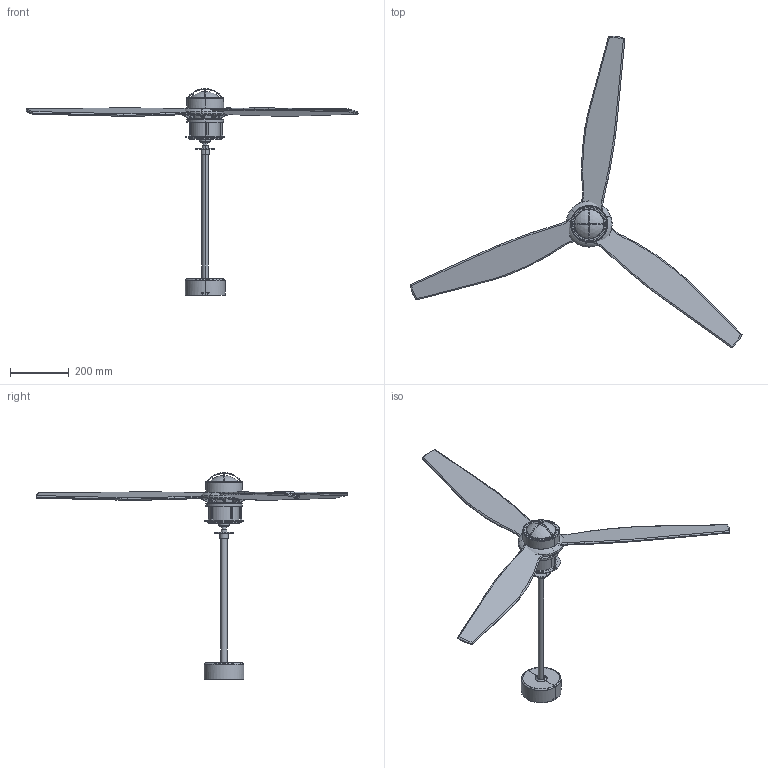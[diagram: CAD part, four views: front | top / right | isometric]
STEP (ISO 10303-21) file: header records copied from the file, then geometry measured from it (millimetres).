
FILE_DESCRIPTION(/* description */ (''),/* implementation_level */ '2;1');
FILE_NAME(/* name */ 'C:\Users\Franco Sartori E\Documents\FARO\DUPLICADO\Modelos\01_Digitalizados\00_OK\JUST FAN\03_Publicación\1280-LK\32100-10.stp',/* time_stamp */ '2021-03-16T13:44:28+01:00',/* author */ ('Franco Sartori E'),/* organization */ (''),/* preprocessor_version */ 'ST-DEVELOPER v18.1',/* originating_system */ 'AutoCAD Mechanical',/* authorisation */ '');
FILE_SCHEMA (('AUTOMOTIVE_DESIGN { 1 0 10303 214 3 1 1 }'));
Length unit declared in the file: millimetre
Products named in the file (3): Product; 32100_33394_33395_33398_33399_33417_33418_JUSTFAN_LK - JUST FAN-46021
2-Export; 33390_33391LigKIT - LT-460215-Export
Assembly tree (2 placements, depth 2):
  Product
    32100_33394_33395_33398_33399_33417_33418_JUSTFAN_LK - JUST FAN-46021
2-Export
    33390_33391LigKIT - LT-460215-Export
Bounding box: 1127.17 x 1058.55 x 701.9 mm (x, y, z)
Volume: 2930879.4 mm3; surface area: 696918.4 mm2
Topology: 22 solids, 23 shells, 705 faces, 1793 edges, 1132 vertices
Faces by surface type: plane 217, cylinder 217, torus 163, bspline 70, cone 34, sphere 4
Entity records: 30891 total; most frequent: CARTESIAN_POINT 15243, ORIENTED_EDGE 3498, DIRECTION 2708, EDGE_CURVE 1793, VERTEX_POINT 1132, AXIS2_PLACEMENT_3D 1064, B_SPLINE_CURVE_WITH_KNOTS 787, EDGE_LOOP 773
